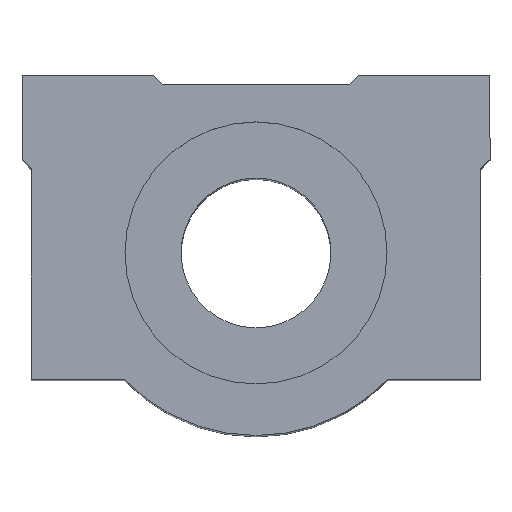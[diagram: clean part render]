
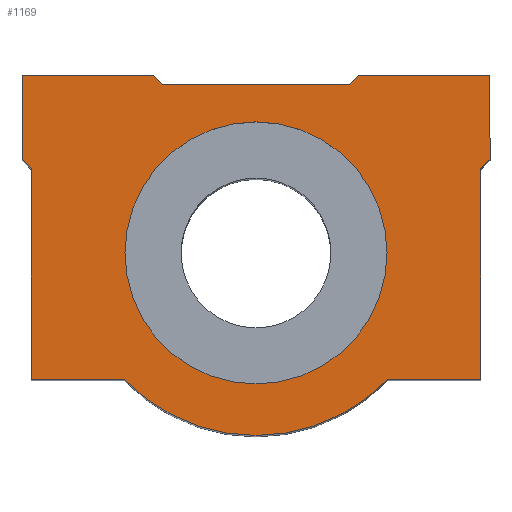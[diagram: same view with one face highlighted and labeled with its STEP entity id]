
A CAD part, top view. The second image highlights one B-rep face of the part: STEP entity #1169.
In plain terms, the highlighted planar face has unit normal (0, 0, 1).
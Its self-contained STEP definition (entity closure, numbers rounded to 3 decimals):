
#91=CARTESIAN_POINT('',(-14.709,4.198,87.0));
#92=VERTEX_POINT('',#91);
#101=CARTESIAN_POINT('',(13.291,4.198,87.0));
#102=VERTEX_POINT('',#101);
#103=CARTESIAN_POINT('',(-0.709,4.198,87.));
#104=DIRECTION('',(0.0,0.0,-1.0));
#105=DIRECTION('',(-1.0,0.0,0.0));
#106=AXIS2_PLACEMENT_3D('',#103,#104,#105);
#107=CIRCLE('',#106,14.);
#108=EDGE_CURVE('',#102,#92,#107,.T.);
#640=CARTESIAN_POINT('',(-0.709,4.198,87.));
#641=DIRECTION('',(0.0,0.0,-1.0));
#642=DIRECTION('',(-1.0,0.0,0.0));
#643=AXIS2_PLACEMENT_3D('',#640,#641,#642);
#644=CIRCLE('',#643,14.);
#645=EDGE_CURVE('',#92,#102,#644,.T.);
#780=CARTESIAN_POINT('',(24.291,14.198,87.));
#781=VERTEX_POINT('',#780);
#782=CARTESIAN_POINT('',(23.291,13.198,87.));
#783=VERTEX_POINT('',#782);
#784=CARTESIAN_POINT('',(24.291,14.198,87.));
#785=DIRECTION('',(-0.707,-0.707,0.0));
#786=VECTOR('',#785,1.414);
#787=LINE('',#784,#786);
#788=EDGE_CURVE('',#781,#783,#787,.T.);
#811=CARTESIAN_POINT('',(23.291,-9.302,87.));
#812=VERTEX_POINT('',#811);
#813=CARTESIAN_POINT('',(23.291,13.198,87.));
#814=DIRECTION('',(0.0,-1.0,0.0));
#815=VECTOR('',#814,22.5);
#816=LINE('',#813,#815);
#817=EDGE_CURVE('',#783,#812,#816,.T.);
#835=CARTESIAN_POINT('',(13.362,-9.302,87.));
#836=VERTEX_POINT('',#835);
#837=CARTESIAN_POINT('',(23.291,-9.302,87.));
#838=DIRECTION('',(-1.0,0.0,0.0));
#839=VECTOR('',#838,9.929);
#840=LINE('',#837,#839);
#841=EDGE_CURVE('',#812,#836,#840,.T.);
#867=CARTESIAN_POINT('',(-14.78,-9.302,87.));
#868=VERTEX_POINT('',#867);
#869=CARTESIAN_POINT('',(-0.709,4.198,87.0));
#870=DIRECTION('',(0.0,0.0,-1.));
#871=DIRECTION('',(0.722,0.692,0.0));
#872=AXIS2_PLACEMENT_3D('',#869,#870,#871);
#873=CIRCLE('',#872,19.5);
#874=EDGE_CURVE('',#836,#868,#873,.T.);
#892=CARTESIAN_POINT('',(-24.709,-9.302,87.));
#893=VERTEX_POINT('',#892);
#894=CARTESIAN_POINT('',(-14.78,-9.302,87.));
#895=DIRECTION('',(-1.0,0.0,0.0));
#896=VECTOR('',#895,9.929);
#897=LINE('',#894,#896);
#898=EDGE_CURVE('',#868,#893,#897,.T.);
#924=CARTESIAN_POINT('',(-24.709,13.198,87.));
#925=VERTEX_POINT('',#924);
#926=CARTESIAN_POINT('',(-24.709,-9.302,87.));
#927=DIRECTION('',(0.0,1.0,0.0));
#928=VECTOR('',#927,22.5);
#929=LINE('',#926,#928);
#930=EDGE_CURVE('',#893,#925,#929,.T.);
#948=CARTESIAN_POINT('',(-25.709,14.198,87.));
#949=VERTEX_POINT('',#948);
#950=CARTESIAN_POINT('',(-24.709,13.198,87.));
#951=DIRECTION('',(-0.707,0.707,0.0));
#952=VECTOR('',#951,1.414);
#953=LINE('',#950,#952);
#954=EDGE_CURVE('',#925,#949,#953,.T.);
#972=CARTESIAN_POINT('',(-25.709,23.198,87.));
#973=VERTEX_POINT('',#972);
#974=CARTESIAN_POINT('',(-25.709,14.198,87.));
#975=DIRECTION('',(0.0,1.0,0.0));
#976=VECTOR('',#975,9.);
#977=LINE('',#974,#976);
#978=EDGE_CURVE('',#949,#973,#977,.T.);
#996=CARTESIAN_POINT('',(-11.709,23.198,87.));
#997=VERTEX_POINT('',#996);
#998=CARTESIAN_POINT('',(-25.709,23.198,87.));
#999=DIRECTION('',(1.0,0.0,0.0));
#1000=VECTOR('',#999,14.);
#1001=LINE('',#998,#1000);
#1002=EDGE_CURVE('',#973,#997,#1001,.T.);
#1028=CARTESIAN_POINT('',(-10.709,22.198,87.));
#1029=VERTEX_POINT('',#1028);
#1030=CARTESIAN_POINT('',(-11.709,23.198,87.));
#1031=DIRECTION('',(0.707,-0.707,0.0));
#1032=VECTOR('',#1031,1.414);
#1033=LINE('',#1030,#1032);
#1034=EDGE_CURVE('',#997,#1029,#1033,.T.);
#1052=CARTESIAN_POINT('',(9.291,22.198,87.));
#1053=VERTEX_POINT('',#1052);
#1054=CARTESIAN_POINT('',(-10.709,22.198,87.));
#1055=DIRECTION('',(1.0,0.0,0.0));
#1056=VECTOR('',#1055,20.0);
#1057=LINE('',#1054,#1056);
#1058=EDGE_CURVE('',#1029,#1053,#1057,.T.);
#1076=CARTESIAN_POINT('',(10.291,23.198,87.));
#1077=VERTEX_POINT('',#1076);
#1078=CARTESIAN_POINT('',(9.291,22.198,87.));
#1079=DIRECTION('',(0.707,0.707,0.0));
#1080=VECTOR('',#1079,1.414);
#1081=LINE('',#1078,#1080);
#1082=EDGE_CURVE('',#1053,#1077,#1081,.T.);
#1100=CARTESIAN_POINT('',(24.291,23.198,87.));
#1101=VERTEX_POINT('',#1100);
#1102=CARTESIAN_POINT('',(10.291,23.198,87.));
#1103=DIRECTION('',(1.0,0.0,0.0));
#1104=VECTOR('',#1103,14.);
#1105=LINE('',#1102,#1104);
#1106=EDGE_CURVE('',#1077,#1101,#1105,.T.);
#1132=CARTESIAN_POINT('',(24.291,23.198,87.));
#1133=DIRECTION('',(0.0,-1.0,0.0));
#1134=VECTOR('',#1133,9.);
#1135=LINE('',#1132,#1134);
#1136=EDGE_CURVE('',#1101,#781,#1135,.T.);
#1144=CARTESIAN_POINT('',(-0.709,6.142,87.));
#1145=DIRECTION('',(0.0,0.0,1.0));
#1146=DIRECTION('',(1.0,0.0,0.0));
#1147=AXIS2_PLACEMENT_3D('',#1144,#1145,#1146);
#1148=PLANE('',#1147);
#1149=ORIENTED_EDGE('',*,*,#788,.F.);
#1150=ORIENTED_EDGE('',*,*,#1136,.F.);
#1151=ORIENTED_EDGE('',*,*,#1106,.F.);
#1152=ORIENTED_EDGE('',*,*,#1082,.F.);
#1153=ORIENTED_EDGE('',*,*,#1058,.F.);
#1154=ORIENTED_EDGE('',*,*,#1034,.F.);
#1155=ORIENTED_EDGE('',*,*,#1002,.F.);
#1156=ORIENTED_EDGE('',*,*,#978,.F.);
#1157=ORIENTED_EDGE('',*,*,#954,.F.);
#1158=ORIENTED_EDGE('',*,*,#930,.F.);
#1159=ORIENTED_EDGE('',*,*,#898,.F.);
#1160=ORIENTED_EDGE('',*,*,#874,.F.);
#1161=ORIENTED_EDGE('',*,*,#841,.F.);
#1162=ORIENTED_EDGE('',*,*,#817,.F.);
#1163=EDGE_LOOP('',(#1149,#1150,#1151,#1152,#1153,#1154,#1155,#1156,#1157,#1158,#1159,#1160,#1161,#1162));
#1164=FACE_OUTER_BOUND('',#1163,.T.);
#1165=ORIENTED_EDGE('',*,*,#108,.T.);
#1166=ORIENTED_EDGE('',*,*,#645,.T.);
#1167=EDGE_LOOP('',(#1165,#1166));
#1168=FACE_BOUND('',#1167,.T.);
#1169=ADVANCED_FACE('',(#1164,#1168),#1148,.T.);
